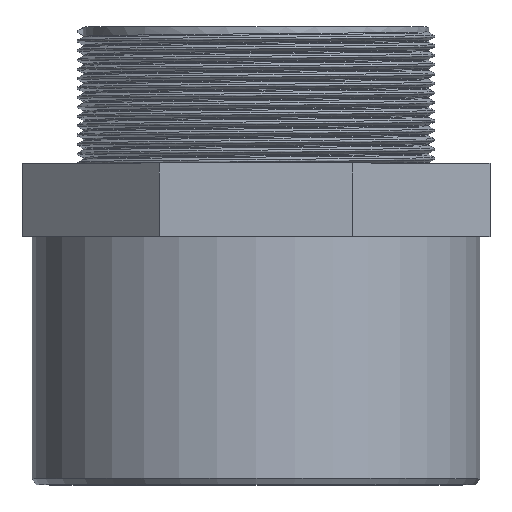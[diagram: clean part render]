
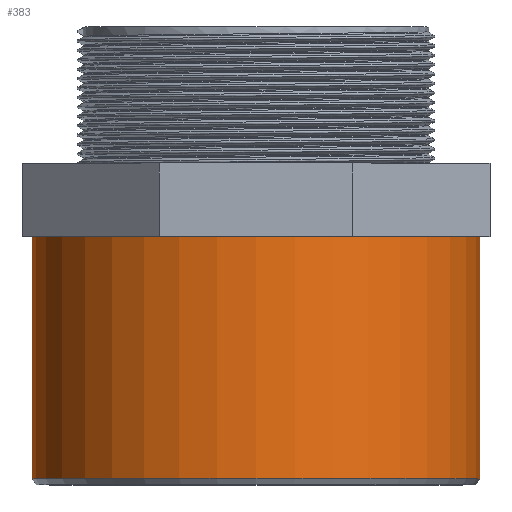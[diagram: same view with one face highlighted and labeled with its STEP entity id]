
A CAD part, top view. The second image highlights one B-rep face of the part: STEP entity #383.
In plain terms, the highlighted cylindrical face has radius 55 mm (diameter 110 mm), a full revolution.
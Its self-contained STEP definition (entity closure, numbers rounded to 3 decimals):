
#100=CYLINDRICAL_SURFACE('',#413,55.);
#106=FACE_BOUND('',#145,.T.);
#117=FACE_OUTER_BOUND('',#144,.T.);
#144=EDGE_LOOP('',(#281));
#145=EDGE_LOOP('',(#282));
#179=CIRCLE('',#411,55.);
#181=CIRCLE('',#414,55.);
#192=VERTEX_POINT('',#543);
#194=VERTEX_POINT('',#548);
#228=EDGE_CURVE('',#192,#192,#179,.T.);
#230=EDGE_CURVE('',#194,#194,#181,.T.);
#281=ORIENTED_EDGE('',*,*,#230,.F.);
#282=ORIENTED_EDGE('',*,*,#228,.F.);
#383=ADVANCED_FACE('',(#117,#106),#100,.T.);
#411=AXIS2_PLACEMENT_3D('',#544,#448,#449);
#413=AXIS2_PLACEMENT_3D('',#547,#452,#453);
#414=AXIS2_PLACEMENT_3D('',#549,#454,#455);
#448=DIRECTION('center_axis',(0.,-1.,0.));
#449=DIRECTION('ref_axis',(-1.,0.,0.));
#452=DIRECTION('center_axis',(0.,-1.,0.));
#453=DIRECTION('ref_axis',(-1.,0.,0.));
#454=DIRECTION('center_axis',(0.,1.,0.));
#455=DIRECTION('ref_axis',(-1.,0.,0.));
#543=CARTESIAN_POINT('',(55.,-68.5,0.));
#544=CARTESIAN_POINT('Origin',(0.,-68.5,0.));
#547=CARTESIAN_POINT('Origin',(0.,-9.,0.));
#548=CARTESIAN_POINT('',(55.,-9.,0.));
#549=CARTESIAN_POINT('Origin',(0.,-9.,0.));
